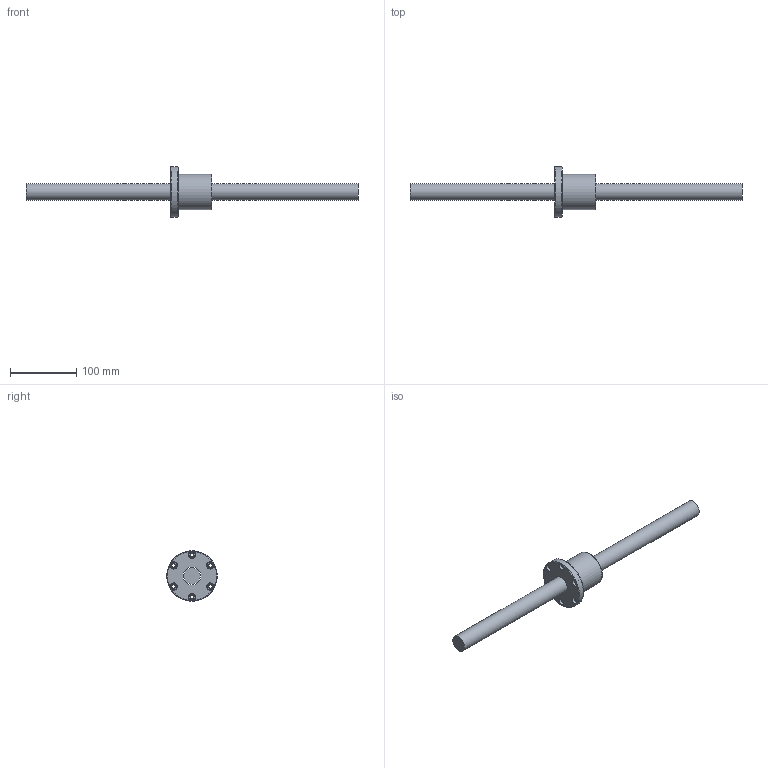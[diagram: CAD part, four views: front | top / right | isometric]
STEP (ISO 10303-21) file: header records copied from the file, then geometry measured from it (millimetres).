
FILE_DESCRIPTION (( 'STEP AP203' ), '1' );
FILE_NAME ('SFV02506N-4.8.step', '2024-05-20T03:38:16', ( '' ), ( '' ), 'SwSTEP 2.0', 'SolidWorks 2022', '' );
FILE_SCHEMA (( 'CONFIG_CONTROL_DESIGN' ));
Length unit declared in the file: millimetre
Products named in the file (1): SFV02506N-4.8
Bounding box: 500 x 76 x 76 mm (x, y, z)
Volume: 368198.1 mm3; surface area: 65794.9 mm2
Topology: 2 solids, 2 shells, 57 faces, 145 edges, 93 vertices
Faces by surface type: cylinder 24, cone 13, plane 12, bspline 5, torus 3
Full cylindrical faces by diameter (mm): 4 x1, 5 x6, 5.5 x6, 9.5 x6, 25 x1, 27.1 x1, 53 x1, 76 x1
Entity records: 3105 total; most frequent: CARTESIAN_POINT 2054, DIRECTION 206, ORIENTED_EDGE 148, EDGE_LOOP 102, AXIS2_PLACEMENT_3D 101, EDGE_CURVE 74, FACE_OUTER_BOUND 72, VERTEX_POINT 64
